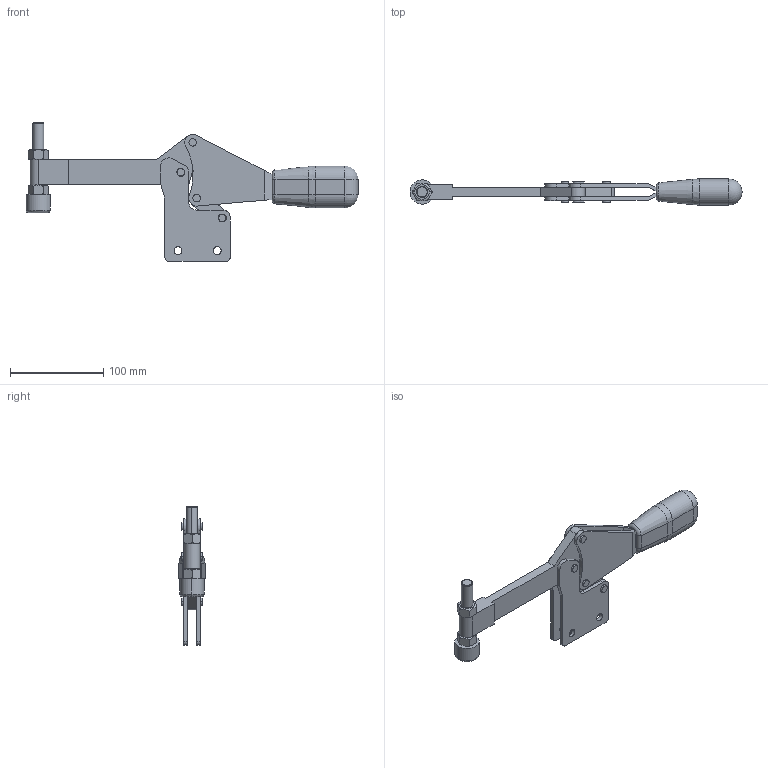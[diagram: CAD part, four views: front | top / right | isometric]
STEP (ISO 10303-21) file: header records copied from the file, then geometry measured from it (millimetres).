
FILE_DESCRIPTION(('modularis output'),'2;1');
FILE_NAME('spanner.stp','11:10:49 2007/07/29',('modularis software ag' ),('modularis software ag'),'unknown preprocess','ACIS', 'unknown authorization');
FILE_SCHEMA(('AUTOMOTIVE_DESIGN_CC2 {UNKNOWN IMPLEMENTATION LEVEL}'));
Length unit declared in the file: millimetre
Products named in the file (6): PRODUCT_ID_1; PRODUCT_ID_2; PRODUCT_ID_3; PRODUCT_ID_4; PRODUCT_ID_5; PRODUCT_ID_6
Bounding box: 356 x 28 x 148.7 mm (x, y, z)
Volume: 254759.7 mm3; surface area: 83995.5 mm2
Topology: 8 solids, 8 shells, 179 faces, 437 edges, 278 vertices
Faces by surface type: plane 85, cylinder 72, torus 12, cone 6, sphere 2, bspline 2
Entity records: 7244 total; most frequent: CARTESIAN_POINT 1352, ORIENTED_EDGE 866, DIRECTION 750, EDGE_CURVE 433, VERTEX_POINT 276, AXIS2_PLACEMENT_3D 268, VECTOR 214, LINE 214
